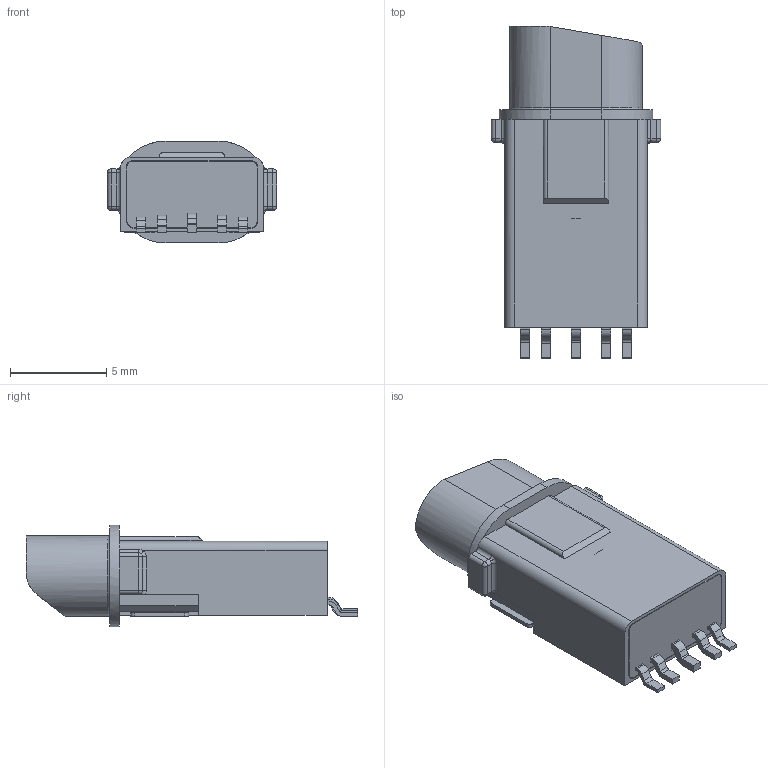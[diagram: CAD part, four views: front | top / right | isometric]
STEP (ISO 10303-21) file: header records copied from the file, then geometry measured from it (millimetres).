
FILE_DESCRIPTION((''),'2;1');
FILE_NAME('DM35A004-07SP','2026-06-29T',('Administrator'),(''),'PRO/ENGINEER BY PARAMETRIC TECHNOLOGY CORPORATION, 2013040','PRO/ENGINEER BY PARAMETRIC TECHNOLOGY CORPORATION, 2013040','');
FILE_SCHEMA(('CONFIG_CONTROL_DESIGN'));
Length unit declared in the file: millimetre
Products named in the file (1): DM35A004-07SP
Bounding box: 8.8 x 17.25 x 5.3 mm (x, y, z)
Volume: 314.9 mm3; surface area: 736.7 mm2
Topology: 1 solids, 1 shells, 227 faces, 616 edges, 401 vertices
Faces by surface type: plane 137, cylinder 77, torus 6, sphere 4, bspline 2, cone 1
Entity records: 7303 total; most frequent: CARTESIAN_POINT 1442, ORIENTED_EDGE 1232, DIRECTION 1199, EDGE_CURVE 616, VECTOR 427, LINE 427, VERTEX_POINT 401, AXIS2_PLACEMENT_3D 386
